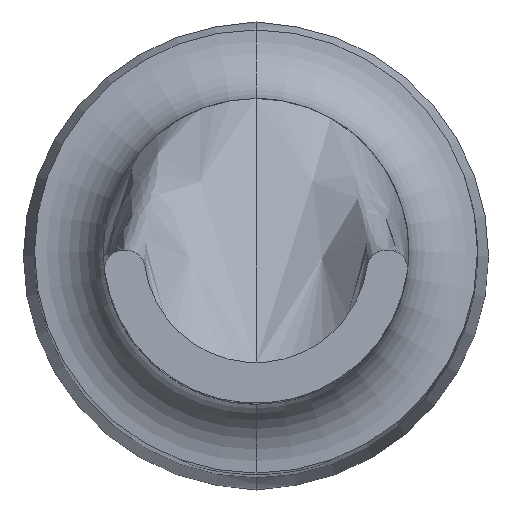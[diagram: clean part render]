
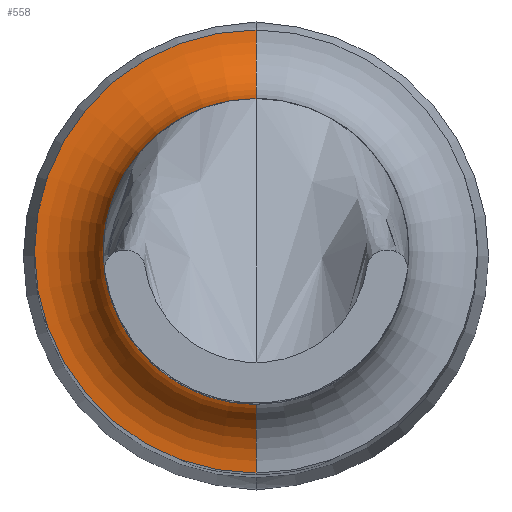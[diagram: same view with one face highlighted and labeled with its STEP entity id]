
A CAD part, top view. The second image highlights one B-rep face of the part: STEP entity #558.
In plain terms, the highlighted toroidal (fillet/blend) face has major radius 1.775 mm and minor radius 0.55 mm.
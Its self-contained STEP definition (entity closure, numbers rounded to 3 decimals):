
#37 = TOROIDAL_SURFACE ( 'NONE', #1128, 1.775, 0.55 ) ;
#200 = DIRECTION ( 'NONE',  ( 0., -1., 0. ) ) ;
#229 = EDGE_CURVE ( 'NONE', #644, #415, #2015, .T. ) ;
#255 = CARTESIAN_POINT ( 'NONE',  ( 0., 0., 10.825 ) ) ;
#415 = VERTEX_POINT ( 'NONE', #1137 ) ;
#472 = CARTESIAN_POINT ( 'NONE',  ( 0., 0., 11.375 ) ) ;
#506 = CARTESIAN_POINT ( 'NONE',  ( 0., -1.775, 10.825 ) ) ;
#558 = ADVANCED_FACE ( 'NONE', ( #2768 ), #37, .F. ) ;
#565 = CARTESIAN_POINT ( 'NONE',  ( 0., 1.775, 11.375 ) ) ;
#644 = VERTEX_POINT ( 'NONE', #1826 ) ;
#894 = DIRECTION ( 'NONE',  ( 0., 0., 1. ) ) ;
#969 = ORIENTED_EDGE ( 'NONE', *, *, #2548, .F. ) ;
#1102 = DIRECTION ( 'NONE',  ( 0., 0., 1. ) ) ;
#1128 = AXIS2_PLACEMENT_3D ( 'NONE', #2141, #1503, #2337 ) ;
#1137 = CARTESIAN_POINT ( 'NONE',  ( 0., -1.225, 11.375 ) ) ;
#1139 = CARTESIAN_POINT ( 'NONE',  ( 0., -1.775, 11.375 ) ) ;
#1222 = DIRECTION ( 'NONE',  ( 1., 0., 0. ) ) ;
#1243 = EDGE_CURVE ( 'NONE', #2484, #1784, #1531, .T. ) ;
#1250 = ORIENTED_EDGE ( 'NONE', *, *, #229, .F. ) ;
#1353 = EDGE_LOOP ( 'NONE', ( #1250, #2222, #1801, #969 ) ) ;
#1503 = DIRECTION ( 'NONE',  ( 0., 0., 1. ) ) ;
#1531 = CIRCLE ( 'NONE', #1793, 1.775 ) ;
#1560 = DIRECTION ( 'NONE',  ( 0., -1., 0. ) ) ;
#1727 = CIRCLE ( 'NONE', #2496, 0.55 ) ;
#1745 = CARTESIAN_POINT ( 'NONE',  ( 0., 1.775, 10.825 ) ) ;
#1784 = VERTEX_POINT ( 'NONE', #506 ) ;
#1793 = AXIS2_PLACEMENT_3D ( 'NONE', #255, #1102, #200 ) ;
#1801 = ORIENTED_EDGE ( 'NONE', *, *, #1243, .T. ) ;
#1826 = CARTESIAN_POINT ( 'NONE',  ( 0., 1.225, 11.375 ) ) ;
#1931 = DIRECTION ( 'NONE',  ( -1., 0., 0. ) ) ;
#2015 = CIRCLE ( 'NONE', #2474, 1.225 ) ;
#2043 = EDGE_CURVE ( 'NONE', #644, #2484, #2213, .T. ) ;
#2077 = DIRECTION ( 'NONE',  ( 0., 1., 0. ) ) ;
#2141 = CARTESIAN_POINT ( 'NONE',  ( 0., 0., 11.375 ) ) ;
#2159 = DIRECTION ( 'NONE',  ( 0., 0., 1. ) ) ;
#2213 = CIRCLE ( 'NONE', #2347, 0.55 ) ;
#2222 = ORIENTED_EDGE ( 'NONE', *, *, #2043, .T. ) ;
#2337 = DIRECTION ( 'NONE',  ( 0., -1., 0. ) ) ;
#2347 = AXIS2_PLACEMENT_3D ( 'NONE', #565, #1222, #2077 ) ;
#2474 = AXIS2_PLACEMENT_3D ( 'NONE', #472, #894, #1560 ) ;
#2484 = VERTEX_POINT ( 'NONE', #1745 ) ;
#2496 = AXIS2_PLACEMENT_3D ( 'NONE', #1139, #1931, #2159 ) ;
#2548 = EDGE_CURVE ( 'NONE', #415, #1784, #1727, .T. ) ;
#2768 = FACE_OUTER_BOUND ( 'NONE', #1353, .T. ) ;
